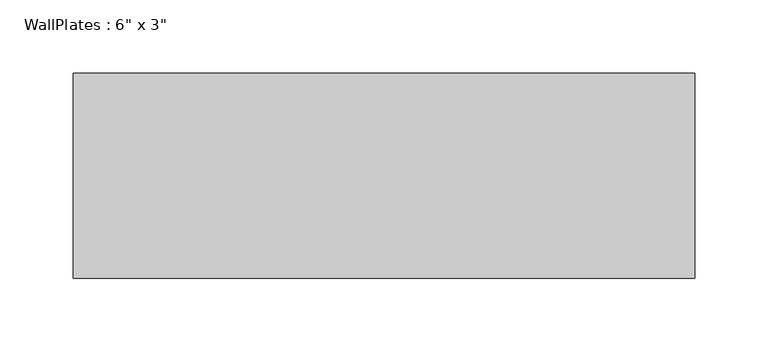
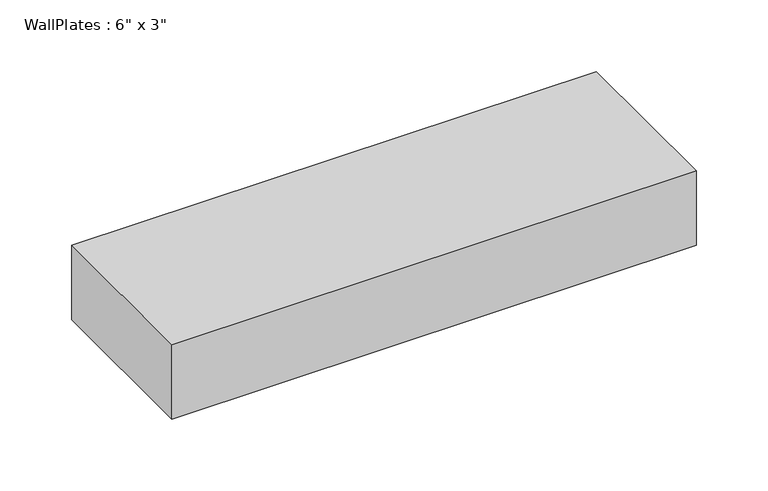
"""IFC4 building model written with IfcOpenShell, lengths in millimetres: beam geometry."""

from ifc_helpers import new_model, si_unit, frame, origin, place, context, project, spatial, polyline, outline, extrude, source, transform, mapped, element, save


def beam_8e30b7c7(model_context):
    return source(origin(), model_context, "Body", "SweptSolid", [
        extrude(outline(polyline([(-211.6616667, -69.85), (-211.6616667, 69.85), (211.6616667, 69.85), (211.6616667, -69.85), (-211.6616667, -69.85)])), frame((0.0, 0.0, -31.75), z_axis=(0.0, 0.0, 1.0), x_axis=(1.0, 0.0, 0.0)), (0.0, 0.0, 1.0), 63.5),
    ])


if __name__ == "__main__":
    model = new_model("IFC4")
    model_context = context("Model", 3, world=origin())
    ifc_project = project(units=[si_unit("LENGTHUNIT", "METRE", prefix="MILLI")], contexts=[model_context])
    site = spatial("IfcSite", under=ifc_project)
    building = spatial("IfcBuilding", under=site)
    placement = place(None, origin())
    beam_shape = beam_8e30b7c7(model_context)
    element("IfcBeam", 1, ObjectType="WallPlates : 6\" x 3\"", at=placement, inside=building, context=model_context, shape_type="MappedRepresentation", body=[
        mapped(beam_shape, transform((0.0, 0.0, 0.0), x_axis=(1.0, 0.0, 0.0), y_axis=(0.0, 1.0, 0.0), z_axis=(0.0, 0.0, 1.0))),
    ])
    save(model, "model.ifc")
